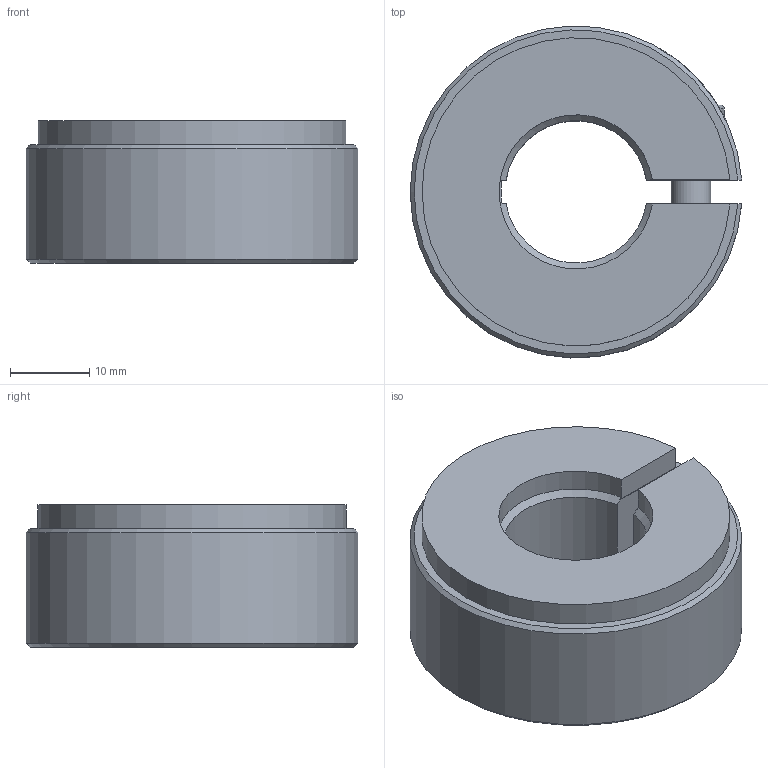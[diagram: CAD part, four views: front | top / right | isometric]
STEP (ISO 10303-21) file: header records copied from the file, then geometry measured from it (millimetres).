
FILE_DESCRIPTION( ( 'STEP AP203' ), '1' );
FILE_NAME( 'C:/Temp/Ganter_Step_05_03_2020/data/3_2/gn7062_3/Semi-split Stainless Steel-Set collar GN 7062.3-42-B18-NI.stp', '2020-03-13T05:40:24', ( 'License CC BY-ND 4.0' ), ( 'CADENAS' ), ' ', 'PARTsolutions', ' ' );
FILE_SCHEMA( ( 'CONFIG_CONTROL_DESIGN' ) );
Length unit declared in the file: millimetre
Products named in the file (1): _Semi-split Stainless Steel-Set collar GN 7062.3-42-B18-NI
Bounding box: 41.95 x 41.97 x 18 mm (x, y, z)
Volume: 18431.6 mm3; surface area: 6469.5 mm2
Topology: 1 solids, 1 shells, 36 faces, 89 edges, 59 vertices
Faces by surface type: plane 20, cylinder 10, cone 5, torus 1
Full cylindrical faces by diameter (mm): 5 x1, 5.4 x1, 8.5 x1, 9 x1
Entity records: 1182 total; most frequent: CARTESIAN_POINT 297, DIRECTION 170, ORIENTED_EDGE 168, EDGE_CURVE 84, AXIS2_PLACEMENT_3D 64, VERTEX_POINT 59, EDGE_LOOP 47, LINE 42
